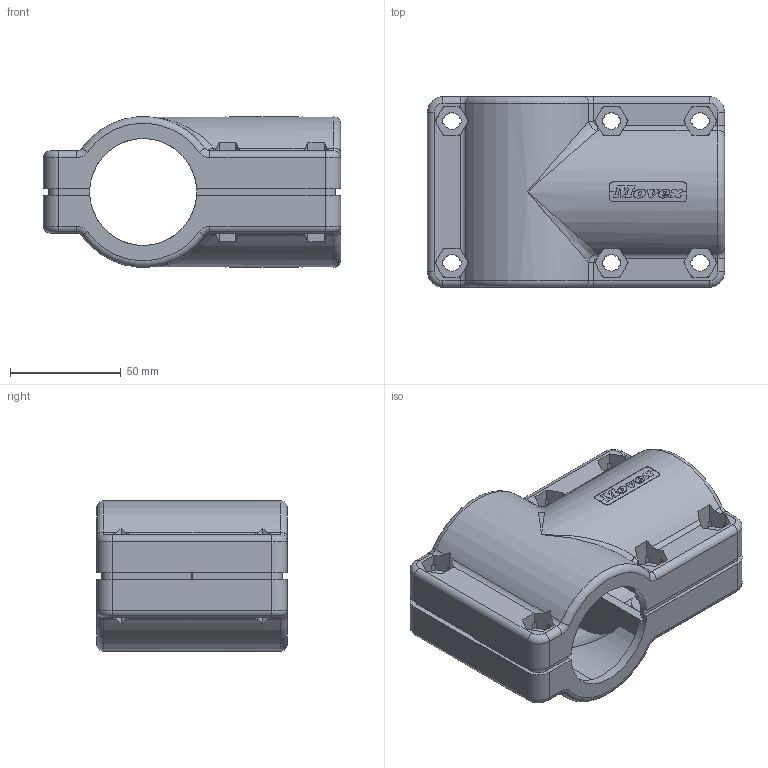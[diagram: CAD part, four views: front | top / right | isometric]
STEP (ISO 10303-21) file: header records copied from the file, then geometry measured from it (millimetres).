
FILE_DESCRIPTION(('STEP AP214'),'1');
FILE_NAME('P41301_01','2017-04-10T06:25:42',('dentellad'),(' '),'Spatial InterOp 3D',' ',' ');
FILE_SCHEMA(('automotive_design'));
Length unit declared in the file: millimetre
Products named in the file (2): 1; 2
Bounding box: 134 x 86 x 68 mm (x, y, z)
Volume: 163123.4 mm3; surface area: 93045 mm2
Topology: 2 solids, 2 shells, 1632 faces, 4798 edges, 3170 vertices
Faces by surface type: plane 1236, cylinder 352, torus 26, bspline 10, cone 8
Entity records: 94073 total; most frequent: CARTESIAN_POINT 17550, ORIENTED_EDGE 9584, DIRECTION 6696, STYLED_ITEM 6306, PRESENTATION_STYLE_ASSIGNMENT 6306, COLOUR_RGB 6306, EDGE_CURVE 4792, CURVE_STYLE 4672
